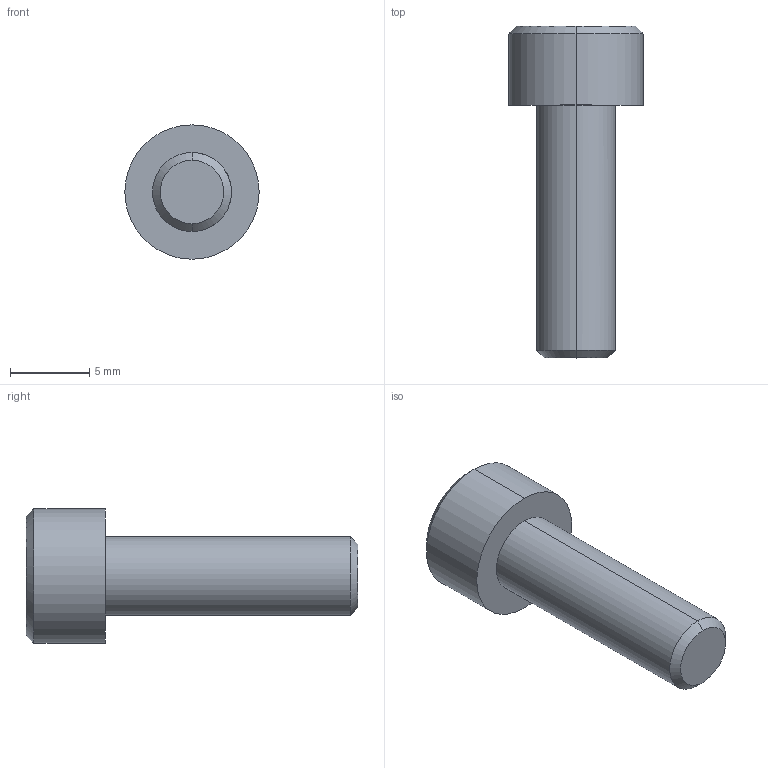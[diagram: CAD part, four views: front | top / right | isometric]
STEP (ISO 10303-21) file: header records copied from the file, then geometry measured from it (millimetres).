
FILE_DESCRIPTION(/* description */ (''),/* implementation_level */ '2;1');
FILE_NAME(/* name */ '7.x-cart#7.2#CB5-16',/* time_stamp */ '2014-12-01T20:17:26+01:00',/* author */ (''),/* organization */ (''),/* preprocessor_version */ 'ST-DEVELOPER v14',/* originating_system */ '',/* authorisation */ '');
FILE_SCHEMA (('AUTOMOTIVE_DESIGN'));
Length unit declared in the file: millimetre
Products named in the file (2): Document; screw DIN912-like, M5x16
Assembly tree (1 placements, depth 2):
  Document
    screw DIN912-like, M5x16
Bounding box: 8.5 x 21 x 8.5 mm (x, y, z)
Volume: 557.4 mm3; surface area: 520.6 mm2
Topology: 1 solids, 1 shells, 25 faces, 56 edges, 33 vertices
Faces by surface type: plane 15, bspline 10
Entity records: 1405 total; most frequent: CARTESIAN_POINT 632, B_SPLINE_CURVE_WITH_KNOTS 126, ORIENTED_EDGE 108, PCURVE 108, DEFINITIONAL_REPRESENTATION 108, SURFACE_CURVE 54, EDGE_CURVE 54, VERTEX_POINT 33
